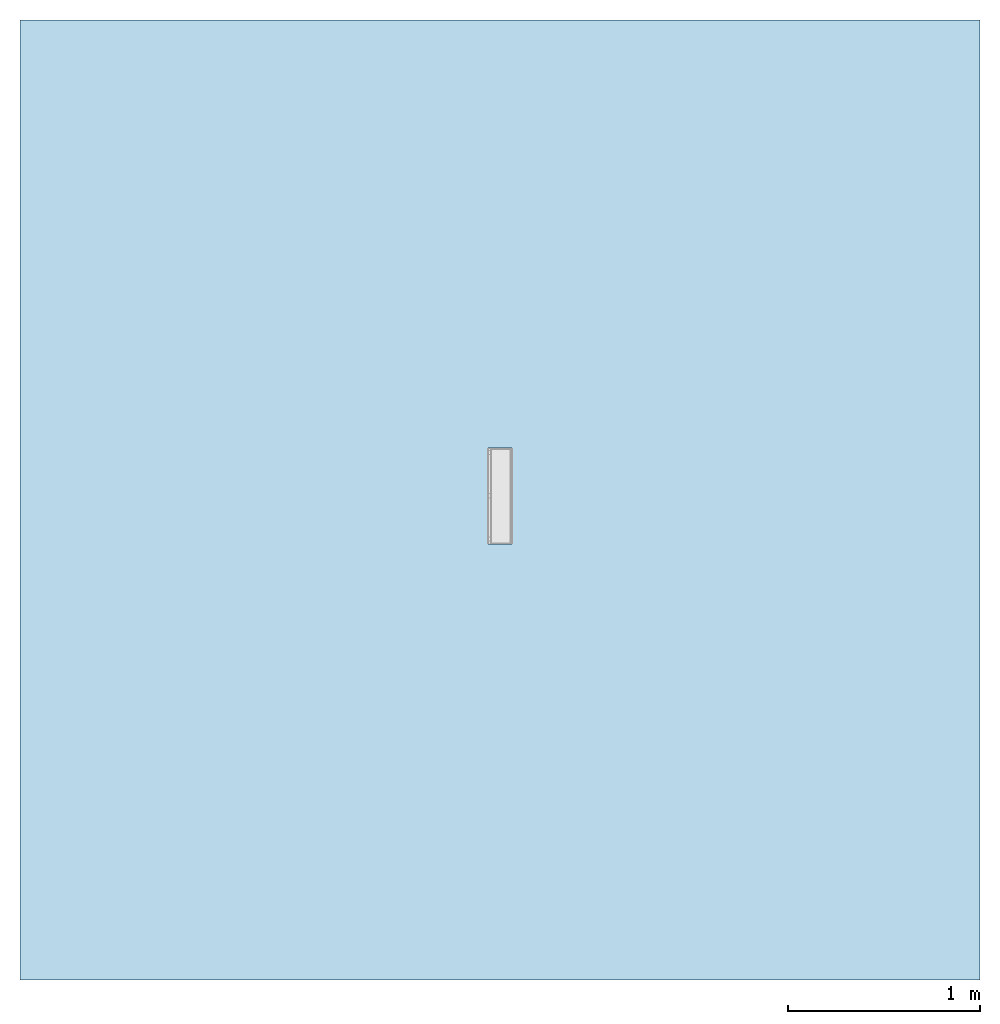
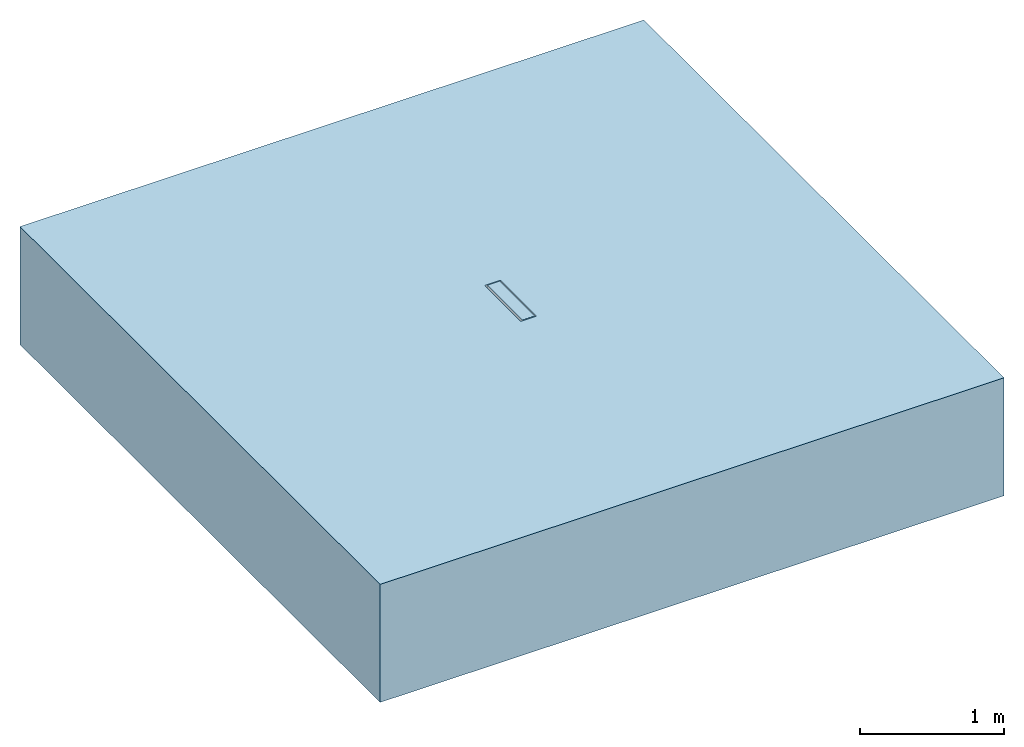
# One storey, incomplete: 1 slab, 2 openings.
"""IFC2X3 building model written with IfcOpenShell, lengths in millimetres."""

from ifc_helpers import new_model, entity, si_unit, converted_unit, direction, frame, frame_2d, origin, origin_2d_with_axis, place, context, subcontext, project, spatial, rectangle, extrude, faceted_brep, material, layer, layer_set, layer_usage, element, save


model = new_model("IFC2X3")

# Units and contexts
model_context = context("Model", 3, precision=1e-06, world=origin(), true_north=direction((2.0, 6.12303176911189e-17, 1.0)))
context_of_model = context(None, 3, precision=1e-06, world=origin(), true_north=direction((2.0, 6.12303176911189e-17, 1.0)))
body_context = subcontext(model_context, "Body", "Model", "MODEL_VIEW")
ifc_project = project(units=[si_unit("LENGTHUNIT", "METRE", prefix="MILLI"), si_unit("AREAUNIT", "SQUARE_METRE", prefix="MILLI"), si_unit("VOLUMEUNIT", "CUBIC_METRE", prefix="MILLI"), converted_unit("PLANEANGLEUNIT", "DEGREE", entity("IfcRatioMeasure", 0.0174532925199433), si_unit("PLANEANGLEUNIT", "RADIAN"), dimensions=[0, 0, 0, 0, 0, 0, 0]), si_unit("TIMEUNIT", "SECOND")], contexts=[model_context, context_of_model])

# Site, building, storey
site_placement = place(None, origin())
site = spatial("IfcSite", under=ifc_project, at=site_placement, Name="Default", CompositionType="ELEMENT")
building_placement = place(site_placement, origin())
building = spatial("IfcBuilding", under=site, at=building_placement, CompositionType="ELEMENT")
storey_placement = place(building_placement, origin())
storey = spatial("IfcBuildingStorey", under=building, at=storey_placement, Name="Level 1", CompositionType="ELEMENT", Elevation=0.0)

# Slab, openings
ifc_material = material(Name="Earth")
ifc_layer = layer(ifc_material, 1000.0)
ifc_layer_set = layer_set([ifc_layer], Name="Floor:Generic Floor - 1000mm")
ifc_layer_usage = layer_usage(ifc_layer_set, "AXIS3", "POSITIVE", 0.0)
slab_placement = place(storey_placement, origin())
slab = element("IfcSlab", 1, at=slab_placement, inside=storey, material=ifc_layer_usage, Name="Floor:Generic Floor - 1000mm", ObjectType="Floor:Generic Floor - 1000mm", PredefinedType="FLOOR", context=body_context, shape_type="SweptSolid", body=[
    extrude(rectangle(XDim=5000.0, YDim=5000.0, at=frame_2d((0.0, 0.0), x_axis=(0.0, -1.0))), frame((0.0, 0.0, 0.0), z_axis=(0.0, 0.0, -1.0), x_axis=(-1.0, 0.0, 0.0)), (0.0, 0.0, 1.0), 1000.0),
])
opening_1_placement = place(slab_placement, origin())
element("IfcOpeningElement", 2, at=opening_1_placement, cuts=slab, ObjectType="Recess", context=body_context, shape_type="SweptSolid", body=[
    extrude(rectangle(XDim=18.0000000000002, YDim=500.0, at=origin_2d_with_axis()), frame((-54.2499999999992, 20.0, -6105.0), z_axis=(0.0, 0.0, 1.0), x_axis=(-1.0, 0.0, 0.0)), (0.0, 0.0, 1.0), 105.000000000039),
])
opening_2_placement = place(slab_placement, origin())
element("IfcOpeningElement", 3, at=opening_2_placement, cuts=slab, ObjectType="Recess", context=body_context, shape_type="Brep", body=[
    faceted_brep([(63.2499999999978, 270.0, -105.0), (67.500000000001, -230.0, -105.0), (63.2499999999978, -230.0, -105.0), (67.500000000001, 270.0, -105.0), (-67.4999999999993, 270.0, -105.0), (-63.25, -230.0, -105.0), (-67.4999999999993, -230.0, -105.0), (-63.25, 270.0, -105.0), (53.2499999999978, 264.0, -105.0), (53.2499999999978, -224.0, -105.0), (-45.25, -224.0, -105.0), (-45.25, 264.0, -105.0), (67.500000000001, 270.0, -740.0), (-67.4999999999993, 270.0, -740.0), (63.2499999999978, 270.0, 0.0), (-63.25, 270.0, 0.0), (-67.4999999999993, -230.0, -740.0), (67.500000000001, -230.0, -740.0), (-63.25, -230.0, 0.0), (63.2499999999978, -230.0, 0.0), (53.2499999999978, 264.0, 0.0), (-45.25, 264.0, 0.0), (-45.25, -224.0, 0.0), (53.2499999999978, -224.0, 0.0)], [[[0, 1, 2]], [[1, 0, 3]], [[4, 5, 6]], [[5, 4, 7]], [[8, 9, 10]], [[10, 11, 8]], [[3, 0, 12]], [[13, 12, 0]], [[14, 7, 0]], [[4, 13, 7]], [[0, 7, 13]], [[14, 15, 7]], [[6, 5, 16]], [[17, 16, 5]], [[18, 2, 5]], [[1, 17, 2]], [[5, 2, 17]], [[18, 19, 2]], [[13, 16, 17]], [[17, 12, 13]], [[12, 17, 1]], [[1, 3, 12]], [[4, 6, 16]], [[16, 13, 4]], [[19, 20, 14]], [[21, 14, 20]], [[22, 23, 19]], [[20, 19, 23]], [[18, 15, 21]], [[14, 21, 15]], [[19, 18, 22]], [[21, 22, 18]], [[7, 15, 18]], [[18, 5, 7]], [[0, 19, 14]], [[19, 0, 2]], [[8, 20, 23]], [[23, 9, 8]], [[9, 23, 22]], [[22, 10, 9]], [[10, 22, 21]], [[21, 11, 10]], [[11, 21, 20]], [[20, 8, 11]]]),
])

save(model, "model.ifc")
